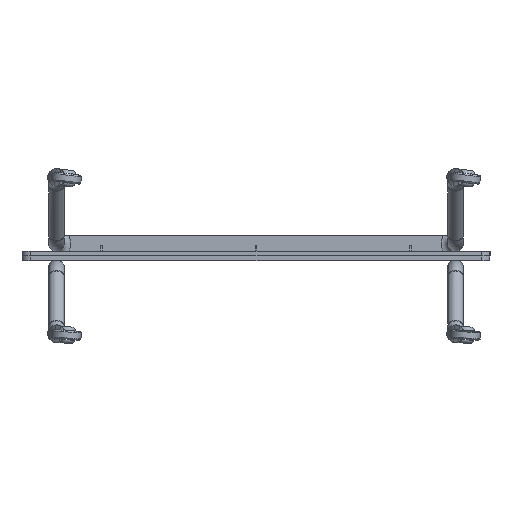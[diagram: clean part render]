
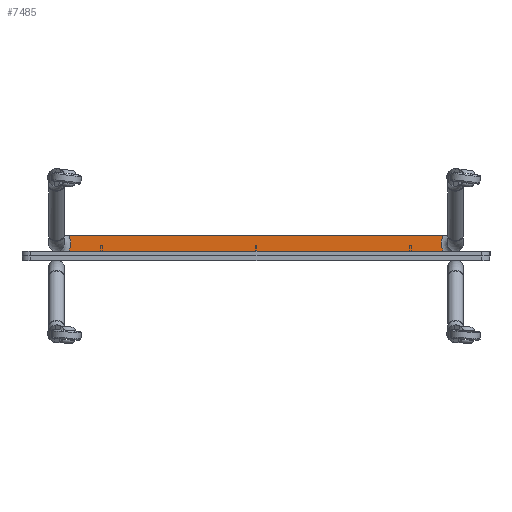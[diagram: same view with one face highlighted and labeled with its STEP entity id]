
A CAD part, front view. The second image highlights one B-rep face of the part: STEP entity #7485.
In plain terms, the highlighted planar face has unit normal (0, -1, 0).
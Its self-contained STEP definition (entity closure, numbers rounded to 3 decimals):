
#200=PLANE('',#8104);
#483=CIRCLE('',#8089,36.3);
#491=CIRCLE('',#8105,36.3);
#891=FACE_OUTER_BOUND('',#1369,.T.);
#1369=EDGE_LOOP('',(#5571,#5572,#5573,#5574));
#2241=LINE('',#12689,#2554);
#2304=LINE('',#15287,#2617);
#2554=VECTOR('',#8867,10.);
#2617=VECTOR('',#9320,10.);
#2990=VERTEX_POINT('',#12671);
#2991=VERTEX_POINT('',#12688);
#3148=VERTEX_POINT('',#15236);
#3152=VERTEX_POINT('',#15268);
#3792=EDGE_CURVE('',#2991,#2990,#2241,.T.);
#4053=EDGE_CURVE('',#2990,#3148,#483,.T.);
#4060=EDGE_CURVE('',#3148,#3152,#2304,.T.);
#4066=EDGE_CURVE('',#2991,#3152,#491,.T.);
#5571=ORIENTED_EDGE('',*,*,#3792,.T.);
#5572=ORIENTED_EDGE('',*,*,#4053,.T.);
#5573=ORIENTED_EDGE('',*,*,#4060,.T.);
#5574=ORIENTED_EDGE('',*,*,#4066,.F.);
#7485=ADVANCED_FACE('',(#891),#200,.T.);
#8089=AXIS2_PLACEMENT_3D('',#15255,#9301,#9302);
#8104=AXIS2_PLACEMENT_3D('',#15298,#9335,#9336);
#8105=AXIS2_PLACEMENT_3D('',#15299,#9337,#9338);
#8867=DIRECTION('',(1.,0.,0.));
#9301=DIRECTION('center_axis',(0.,1.,0.));
#9302=DIRECTION('ref_axis',(-1.,0.,0.));
#9320=DIRECTION('',(-1.,0.,0.));
#9335=DIRECTION('center_axis',(0.,-1.,0.));
#9336=DIRECTION('ref_axis',(-1.,0.,0.));
#9337=DIRECTION('center_axis',(0.,-1.,0.));
#9338=DIRECTION('ref_axis',(1.,0.,0.));
#12671=CARTESIAN_POINT('',(434.971,994.913,-10.464));
#12688=CARTESIAN_POINT('',(-510.879,994.913,-10.464));
#12689=CARTESIAN_POINT('',(-45.543,994.913,-10.464));
#15236=CARTESIAN_POINT('',(435.295,994.913,29.036));
#15255=CARTESIAN_POINT('Origin',(465.588,994.913,9.036));
#15268=CARTESIAN_POINT('',(-511.204,994.913,29.036));
#15287=CARTESIAN_POINT('',(-205.799,994.913,29.036));
#15298=CARTESIAN_POINT('Origin',(-45.631,994.913,9.036));
#15299=CARTESIAN_POINT('Origin',(-541.497,994.913,9.036));
